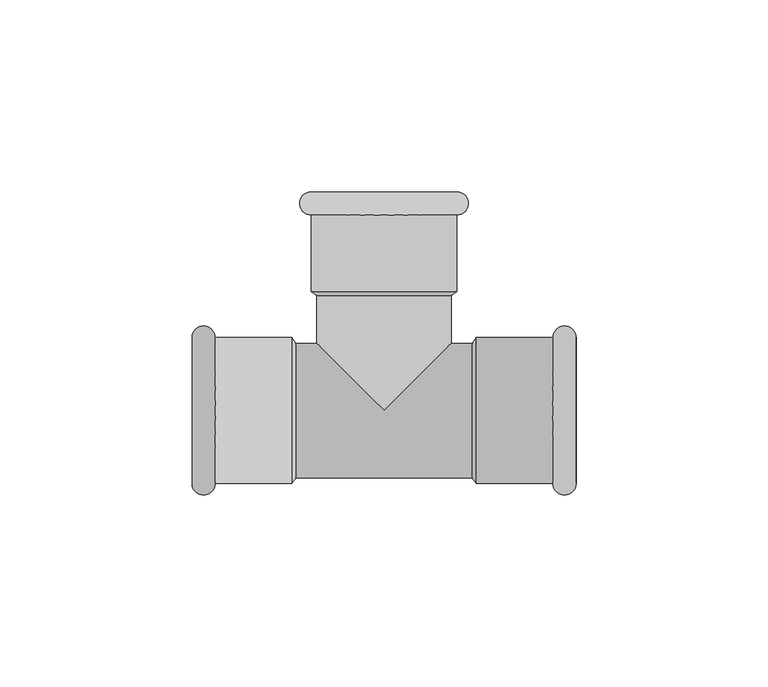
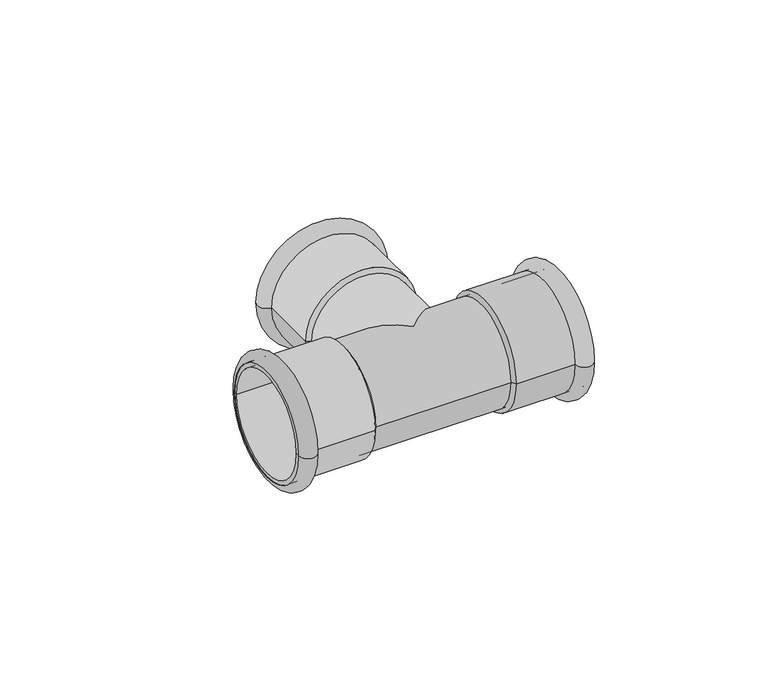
"""IFC4 building model written with IfcOpenShell, lengths in millimetres: pipe fitting geometry, NLRS_50_PIF_UN_Geberit Mapress Therm gelijkzijdig T-stuk_PRO_3207571 : DN12-100 / d15-108 - OD."""

from ifc_helpers import new_model, si_unit, point, frame, origin, place, context, project, spatial, polyline, circle_curve, ellipse_curve, trimmed, source, transform, mapped, element, save
from ifc_brep_helpers import plane_surface, cylinder_surface, revolved_surface, advanced_brep


def pipe_fitting_86d36912(model_context):
    return source(origin(), model_context, "Body", "AdvancedBrep", [
        advanced_brep(
        [(19.0, 57.0, 0.0), (-19.0, 57.0, 0.0), (-19.0, 51.0, 0.0), (19.0, 51.0, 0.0)],
        [
            (0, 1, circle_curve(frame((0.0, 57.0, 0.0), z_axis=(0.0, 1.0, 0.0), x_axis=(-1.0, 0.0, 0.0)), 19.0)),
            (1, 2),
            (2, 3, circle_curve(frame((0.0, 51.0, 0.0), z_axis=(0.0, -1.0, 0.0), x_axis=(-1.0, 0.0, 0.0)), 19.0)),
            (3, 0),
            (1, 0, circle_curve(frame((0.0, 57.0, 0.0), z_axis=(0.0, 1.0, 0.0), x_axis=(-1.0, 0.0, 0.0)), 19.0)),
            (3, 2, circle_curve(frame((0.0, 51.0, 0.0), z_axis=(0.0, -1.0, 0.0), x_axis=(-1.0, 0.0, 0.0)), 19.0)),
            (2, 1, circle_curve(frame((-19.0, 54.0, 0.0), z_axis=(0.0, 0.0, -1.0), x_axis=(0.0, 1.0, 0.0)), 3.0)),
            (0, 3, circle_curve(frame((19.0, 54.0, 0.0), z_axis=(0.0, 0.0, -1.0), x_axis=(0.0, 1.0, 0.0)), 3.0)),
        ],
        [
            revolved_surface(polyline([(-19.0, 51.0, 0.0), (-19.0, 57.0, 0.0)]), (0.0, 31.0, 0.0), (0.0, -1.0, 0.0)),
            revolved_surface(trimmed(ellipse_curve(frame((-19.0, 54.0, 0.0), z_axis=(0.0, 0.0, 1.0), x_axis=(0.0, 1.0, 0.0)), 3.0, 3.0), [point((-19.0, 57.0, 0.0))], [point((-19.0, 51.0, 0.0))], True, "CARTESIAN"), (0.0, 31.0, 0.0), (0.0, -1.0, 0.0)),
        ],
        [
            (0, [[1, 2, 3, 4]]),
            (0, [[5, -4, 6, -2]]),
            (1, [[-3, 7, -1, 8]]),
            (1, [[-6, -8, -5, -7]]),
        ],
    ),
        advanced_brep(
        [(17.5, 57.0, 0.0), (-17.5, 57.0, 0.0), (-17.5, 30.0, 0.0), (17.5, 30.0, 0.0), (19.0, 57.0, 0.0), (-19.0, 57.0, 0.0), (19.0, 31.0, 0.0), (-19.0, 31.0, 0.0)],
        [
            (0, 1, circle_curve(frame((0.0, 57.0, 0.0), z_axis=(0.0, 1.0, 0.0), x_axis=(-1.0, 0.0, 0.0)), 17.5)),
            (1, 2),
            (2, 3, circle_curve(frame((0.0, 30.0, 0.0), z_axis=(0.0, -1.0, 0.0), x_axis=(-1.0, 0.0, 0.0)), 17.5)),
            (3, 0),
            (1, 0, circle_curve(frame((0.0, 57.0, 0.0), z_axis=(0.0, 1.0, 0.0), x_axis=(-1.0, 0.0, 0.0)), 17.5)),
            (3, 2, circle_curve(frame((0.0, 30.0, 0.0), z_axis=(0.0, -1.0, 0.0), x_axis=(-1.0, 0.0, 0.0)), 17.5)),
            (4, 5, circle_curve(frame((0.0, 57.0, 0.0), z_axis=(0.0, 1.0, 0.0), x_axis=(-1.0, 0.0, 0.0)), 19.0)),
            (5, 1),
            (0, 4),
            (5, 4, circle_curve(frame((0.0, 57.0, 0.0), z_axis=(0.0, 1.0, 0.0), x_axis=(-1.0, 0.0, 0.0)), 19.0)),
            (6, 7, circle_curve(frame((0.0, 31.0, 0.0), z_axis=(0.0, 1.0, 0.0), x_axis=(-1.0, 0.0, 0.0)), 19.0)),
            (7, 5),
            (4, 6),
            (7, 6, circle_curve(frame((0.0, 31.0, 0.0), z_axis=(0.0, 1.0, 0.0), x_axis=(-1.0, 0.0, 0.0)), 19.0)),
            (2, 7),
            (6, 3),
        ],
        [
            revolved_surface(polyline([(-17.5, 30.0, 0.0), (-17.5, 57.0, 0.0)]), (0.0, 31.0, 0.0), (0.0, -1.0, 0.0)),
            plane_surface(frame((0.0, 57.0, 0.0), z_axis=(0.0, 1.0, 0.0), x_axis=(-1.0, 0.0, 0.0))),
            cylinder_surface(frame((0.0, 31.0, 0.0), z_axis=(0.0, -1.0, 0.0), x_axis=(-1.0, 0.0, 0.0)), 19.0),
            revolved_surface(polyline([(-19.0, 31.0, 0.0), (-17.5, 30.0, 0.0)]), (0.0, 31.0, 0.0), (0.0, -1.0, 0.0)),
        ],
        [
            (0, [[1, 2, 3, 4]]),
            (0, [[5, -4, 6, -2]]),
            (1, [[7, 8, -1, 9]]),
            (1, [[10, -9, -5, -8]]),
            (2, [[11, 12, -7, 13]]),
            (2, [[14, -13, -10, -12]]),
            (3, [[-3, 15, -11, 16]]),
            (3, [[-6, -16, -14, -15]]),
        ],
    ),
        advanced_brep(
        [(50.0, -19.0, 0.0), (50.0, 19.0, 0.0), (44.0, 19.0, 0.0), (44.0, -19.0, 0.0)],
        [
            (0, 1, circle_curve(frame((50.0, 0.0, 0.0), z_axis=(1.0, 0.0, 0.0), x_axis=(0.0, 1.0, 0.0)), 19.0)),
            (1, 2),
            (2, 3, circle_curve(frame((44.0, 0.0, 0.0), z_axis=(-1.0, 0.0, 0.0), x_axis=(0.0, 1.0, 0.0)), 19.0)),
            (3, 0),
            (1, 0, circle_curve(frame((50.0, 0.0, 0.0), z_axis=(1.0, 0.0, 0.0), x_axis=(0.0, 1.0, 0.0)), 19.0)),
            (3, 2, circle_curve(frame((44.0, 0.0, 0.0), z_axis=(-1.0, 0.0, 0.0), x_axis=(0.0, 1.0, 0.0)), 19.0)),
            (2, 1, circle_curve(frame((47.0, 19.0, 0.0), z_axis=(0.0, 0.0, -1.0), x_axis=(1.0, 0.0, 0.0)), 3.0)),
            (0, 3, circle_curve(frame((47.0, -19.0, 0.0), z_axis=(0.0, 0.0, -1.0), x_axis=(1.0, 0.0, 0.0)), 3.0)),
        ],
        [
            revolved_surface(polyline([(44.0, 19.0, 0.0), (50.0, 19.0, 0.0)]), (24.0, 0.0, 0.0), (-1.0, 0.0, 0.0)),
            revolved_surface(trimmed(ellipse_curve(frame((47.0, 19.0, 0.0), z_axis=(0.0, 0.0, 1.0), x_axis=(1.0, 0.0, 0.0)), 3.0, 3.0), [point((50.0, 19.0, 0.0))], [point((44.0, 19.0, 0.0))], True, "CARTESIAN"), (24.0, 0.0, 0.0), (-1.0, 0.0, 0.0)),
        ],
        [
            (0, [[1, 2, 3, 4]]),
            (0, [[5, -4, 6, -2]]),
            (1, [[-3, 7, -1, 8]]),
            (1, [[-6, -8, -5, -7]]),
        ],
    ),
        advanced_brep(
        [(50.0, -17.5, 0.0), (50.0, 17.5, 0.0), (23.0, 17.5, 0.0), (23.0, -17.5, 0.0), (50.0, -19.0, 0.0), (50.0, 19.0, 0.0), (24.0, -19.0, 0.0), (24.0, 19.0, 0.0)],
        [
            (0, 1, circle_curve(frame((50.0, 0.0, 0.0), z_axis=(1.0, 0.0, 0.0), x_axis=(0.0, 1.0, 0.0)), 17.5)),
            (1, 2),
            (2, 3, circle_curve(frame((23.0, 0.0, 0.0), z_axis=(-1.0, 0.0, 0.0), x_axis=(0.0, 1.0, 0.0)), 17.5)),
            (3, 0),
            (1, 0, circle_curve(frame((50.0, 0.0, 0.0), z_axis=(1.0, 0.0, 0.0), x_axis=(0.0, 1.0, 0.0)), 17.5)),
            (3, 2, circle_curve(frame((23.0, 0.0, 0.0), z_axis=(-1.0, 0.0, 0.0), x_axis=(0.0, 1.0, 0.0)), 17.5)),
            (4, 5, circle_curve(frame((50.0, 0.0, 0.0), z_axis=(1.0, 0.0, 0.0), x_axis=(0.0, 1.0, 0.0)), 19.0)),
            (5, 1),
            (0, 4),
            (5, 4, circle_curve(frame((50.0, 0.0, 0.0), z_axis=(1.0, 0.0, 0.0), x_axis=(0.0, 1.0, 0.0)), 19.0)),
            (6, 7, circle_curve(frame((24.0, 0.0, 0.0), z_axis=(1.0, 0.0, 0.0), x_axis=(0.0, 1.0, 0.0)), 19.0)),
            (7, 5),
            (4, 6),
            (7, 6, circle_curve(frame((24.0, 0.0, 0.0), z_axis=(1.0, 0.0, 0.0), x_axis=(0.0, 1.0, 0.0)), 19.0)),
            (2, 7),
            (6, 3),
        ],
        [
            revolved_surface(polyline([(23.0, 17.5, 0.0), (50.0, 17.5, 0.0)]), (24.0, 0.0, 0.0), (-1.0, 0.0, 0.0)),
            plane_surface(frame((50.0, 0.0, 0.0), z_axis=(1.0, 0.0, 0.0), x_axis=(0.0, 1.0, 0.0))),
            cylinder_surface(frame((24.0, 0.0, 0.0), z_axis=(-1.0, 0.0, 0.0), x_axis=(0.0, 1.0, 0.0)), 19.0),
            revolved_surface(polyline([(24.0, 19.0, 0.0), (23.0, 17.5, 0.0)]), (24.0, 0.0, 0.0), (-1.0, 0.0, 0.0)),
        ],
        [
            (0, [[1, 2, 3, 4]]),
            (0, [[5, -4, 6, -2]]),
            (1, [[7, 8, -1, 9]]),
            (1, [[10, -9, -5, -8]]),
            (2, [[11, 12, -7, 13]]),
            (2, [[14, -13, -10, -12]]),
            (3, [[-3, 15, -11, 16]]),
            (3, [[-6, -16, -14, -15]]),
        ],
    ),
        advanced_brep(
        [(-50.0, 19.0, 0.0), (-50.0, -19.0, 0.0), (-44.0, -19.0, 0.0), (-44.0, 19.0, 0.0)],
        [
            (0, 1, circle_curve(frame((-50.0, 0.0, 0.0), z_axis=(-1.0, 0.0, 0.0), x_axis=(0.0, -1.0, 0.0)), 19.0)),
            (1, 2),
            (2, 3, circle_curve(frame((-44.0, 0.0, 0.0), z_axis=(1.0, 0.0, 0.0), x_axis=(0.0, -1.0, 0.0)), 19.0)),
            (3, 0),
            (1, 0, circle_curve(frame((-50.0, 0.0, 0.0), z_axis=(-1.0, 0.0, 0.0), x_axis=(0.0, -1.0, 0.0)), 19.0)),
            (3, 2, circle_curve(frame((-44.0, 0.0, 0.0), z_axis=(1.0, 0.0, 0.0), x_axis=(0.0, -1.0, 0.0)), 19.0)),
            (2, 1, circle_curve(frame((-47.0, -19.0, 0.0), z_axis=(0.0, 0.0, -1.0), x_axis=(-1.0, 0.0, 0.0)), 3.0)),
            (0, 3, circle_curve(frame((-47.0, 19.0, 0.0), z_axis=(0.0, 0.0, -1.0), x_axis=(-1.0, 0.0, 0.0)), 3.0)),
        ],
        [
            revolved_surface(polyline([(-44.0, -19.0, 0.0), (-50.0, -19.0, 0.0)]), (-24.0, 0.0, 0.0), (1.0, 0.0, 0.0)),
            revolved_surface(trimmed(ellipse_curve(frame((-47.0, -19.0, 0.0), z_axis=(0.0, 0.0, 1.0), x_axis=(-1.0, 0.0, 0.0)), 3.0, 3.0), [point((-50.0, -19.0, 0.0))], [point((-44.0, -19.0, 0.0))], True, "CARTESIAN"), (-24.0, 0.0, 0.0), (1.0, 0.0, 0.0)),
        ],
        [
            (0, [[1, 2, 3, 4]]),
            (0, [[5, -4, 6, -2]]),
            (1, [[-3, 7, -1, 8]]),
            (1, [[-6, -8, -5, -7]]),
        ],
    ),
        advanced_brep(
        [(-50.0, 17.5, 0.0), (-50.0, -17.5, 0.0), (-23.0, -17.5, 0.0), (-23.0, 17.5, 0.0), (-50.0, 19.0, 0.0), (-50.0, -19.0, 0.0), (-24.0, 19.0, 0.0), (-24.0, -19.0, 0.0)],
        [
            (0, 1, circle_curve(frame((-50.0, 0.0, 0.0), z_axis=(-1.0, 0.0, 0.0), x_axis=(0.0, -1.0, 0.0)), 17.5)),
            (1, 2),
            (2, 3, circle_curve(frame((-23.0, 0.0, 0.0), z_axis=(1.0, 0.0, 0.0), x_axis=(0.0, -1.0, 0.0)), 17.5)),
            (3, 0),
            (1, 0, circle_curve(frame((-50.0, 0.0, 0.0), z_axis=(-1.0, 0.0, 0.0), x_axis=(0.0, -1.0, 0.0)), 17.5)),
            (3, 2, circle_curve(frame((-23.0, 0.0, 0.0), z_axis=(1.0, 0.0, 0.0), x_axis=(0.0, -1.0, 0.0)), 17.5)),
            (4, 5, circle_curve(frame((-50.0, 0.0, 0.0), z_axis=(-1.0, 0.0, 0.0), x_axis=(0.0, -1.0, 0.0)), 19.0)),
            (5, 1),
            (0, 4),
            (5, 4, circle_curve(frame((-50.0, 0.0, 0.0), z_axis=(-1.0, 0.0, 0.0), x_axis=(0.0, -1.0, 0.0)), 19.0)),
            (6, 7, circle_curve(frame((-24.0, 0.0, 0.0), z_axis=(-1.0, 0.0, 0.0), x_axis=(0.0, -1.0, 0.0)), 19.0)),
            (7, 5),
            (4, 6),
            (7, 6, circle_curve(frame((-24.0, 0.0, 0.0), z_axis=(-1.0, 0.0, 0.0), x_axis=(0.0, -1.0, 0.0)), 19.0)),
            (2, 7),
            (6, 3),
        ],
        [
            revolved_surface(polyline([(-23.0, -17.5, 0.0), (-50.0, -17.5, 0.0)]), (-24.0, 0.0, 0.0), (1.0, 0.0, 0.0)),
            plane_surface(frame((-50.0, 0.0, 0.0), z_axis=(-1.0, 0.0, 0.0), x_axis=(0.0, -1.0, 0.0))),
            cylinder_surface(frame((-24.0, 0.0, 0.0), z_axis=(1.0, 0.0, 0.0), x_axis=(0.0, -1.0, 0.0)), 19.0),
            revolved_surface(polyline([(-24.0, -19.0, 0.0), (-23.0, -17.5, 0.0)]), (-24.0, 0.0, 0.0), (1.0, 0.0, 0.0)),
        ],
        [
            (0, [[1, 2, 3, 4]]),
            (0, [[5, -4, 6, -2]]),
            (1, [[7, 8, -1, 9]]),
            (1, [[10, -9, -5, -8]]),
            (2, [[11, 12, -7, 13]]),
            (2, [[14, -13, -10, -12]]),
            (3, [[-3, 15, -11, 16]]),
            (3, [[-6, -16, -14, -15]]),
        ],
    ),
        advanced_brep(
        [(-24.0, -17.5, 0.0), (-24.0, 17.5, 0.0), (24.0, -17.5, 0.0), (24.0, 17.5, 0.0), (17.5, 17.5, 0.0), (0.0, 0.0, 17.5), (-17.5, 17.5, 0.0), (0.0, 0.0, -17.5), (17.5, 31.0, 0.0), (-17.5, 31.0, 0.0)],
        [
            (0, 1, circle_curve(frame((-24.0, 0.0, 0.0), z_axis=(-1.0, 0.0, 0.0), x_axis=(0.0, 1.0, 0.0)), 17.5)),
            (1, 0, circle_curve(frame((-24.0, 0.0, 0.0), z_axis=(-1.0, 0.0, 0.0), x_axis=(0.0, 1.0, 0.0)), 17.5)),
            (2, 3, circle_curve(frame((24.0, 0.0, 0.0), z_axis=(1.0, 0.0, 0.0), x_axis=(0.0, 1.0, 0.0)), 17.5)),
            (3, 2, circle_curve(frame((24.0, 0.0, 0.0), z_axis=(1.0, 0.0, 0.0), x_axis=(0.0, 1.0, 0.0)), 17.5)),
            (0, 2),
            (3, 4),
            (4, 5, ellipse_curve(frame((0.0, 0.0, 0.0), z_axis=(0.7071067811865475, -0.7071067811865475, 0.0), x_axis=(-0.7071067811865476, -0.7071067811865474, 0.0)), 24.7487373, 17.5)),
            (5, 6, ellipse_curve(frame((0.0, 0.0, 0.0), z_axis=(-0.7071067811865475, -0.7071067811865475, 0.0), x_axis=(-0.7071067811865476, 0.7071067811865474, 0.0)), 24.7487373, 17.5)),
            (6, 1),
            (6, 7, ellipse_curve(frame((0.0, 0.0, 0.0), z_axis=(-0.7071067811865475, -0.7071067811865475, 0.0), x_axis=(-0.7071067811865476, 0.7071067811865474, 0.0)), 24.7487373, 17.5)),
            (7, 4, ellipse_curve(frame((0.0, 0.0, 0.0), z_axis=(0.7071067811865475, -0.7071067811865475, 0.0), x_axis=(-0.7071067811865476, -0.7071067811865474, 0.0)), 24.7487373, 17.5)),
            (8, 9, circle_curve(frame((0.0, 31.0, 0.0), z_axis=(0.0, 1.0, 0.0), x_axis=(-1.0, 0.0, 0.0)), 17.5)),
            (9, 8, circle_curve(frame((0.0, 31.0, 0.0), z_axis=(0.0, 1.0, 0.0), x_axis=(-1.0, 0.0, 0.0)), 17.5)),
            (9, 6),
            (4, 8),
        ],
        [
            plane_surface(frame((-24.0, 0.0, 0.0), z_axis=(-1.0, 0.0, 0.0), x_axis=(0.0, 0.0, 1.0))),
            plane_surface(frame((24.0, 0.0, 0.0), z_axis=(1.0, 0.0, 0.0), x_axis=(0.0, 0.0, 1.0))),
            cylinder_surface(frame((-24.0, 0.0, 0.0), z_axis=(-1.0, 0.0, 0.0), x_axis=(0.0, 1.0, 0.0)), 17.5),
            plane_surface(frame((0.0, 31.0, 0.0), z_axis=(0.0, 1.0, 0.0), x_axis=(0.0, 0.0, 1.0))),
            cylinder_surface(frame((0.0, 0.0, 0.0), z_axis=(0.0, -1.0, 0.0), x_axis=(-1.0, 0.0, 0.0)), 17.5),
        ],
        [
            (0, [[1, 2]]),
            (1, [[3, 4]]),
            (2, [[-1, 5, -4, 6, 7, 8, 9]]),
            (2, [[-2, -9, 10, 11, -6, -3, -5]]),
            (3, [[12, 13]]),
            (4, [[-13, 14, -8, -7, 15]]),
            (4, [[-12, -15, -11, -10, -14]]),
        ],
    ),
    ])


if __name__ == "__main__":
    model = new_model("IFC4")
    model_context = context("Model", 3, world=origin())
    ifc_project = project(units=[si_unit("LENGTHUNIT", "METRE", prefix="MILLI")], contexts=[model_context])
    site = spatial("IfcSite", under=ifc_project)
    building = spatial("IfcBuilding", under=site)
    placement = place(None, origin())
    pipe_fitting_shape = pipe_fitting_86d36912(model_context)
    element("IfcPipeFitting", 1, ObjectType="NLRS_50_PIF_UN_Geberit Mapress Therm gelijkzijdig T-stuk_PRO_3207571 : DN12-100 / d15-108 - OD", at=placement, inside=building, context=model_context, shape_type="MappedRepresentation", body=[
        mapped(pipe_fitting_shape, transform((0.0, 0.0, 0.0), x_axis=(1.0, 0.0, 0.0), y_axis=(0.0, 1.0, 0.0), z_axis=(0.0, 0.0, 1.0))),
    ])
    save(model, "model.ifc")
